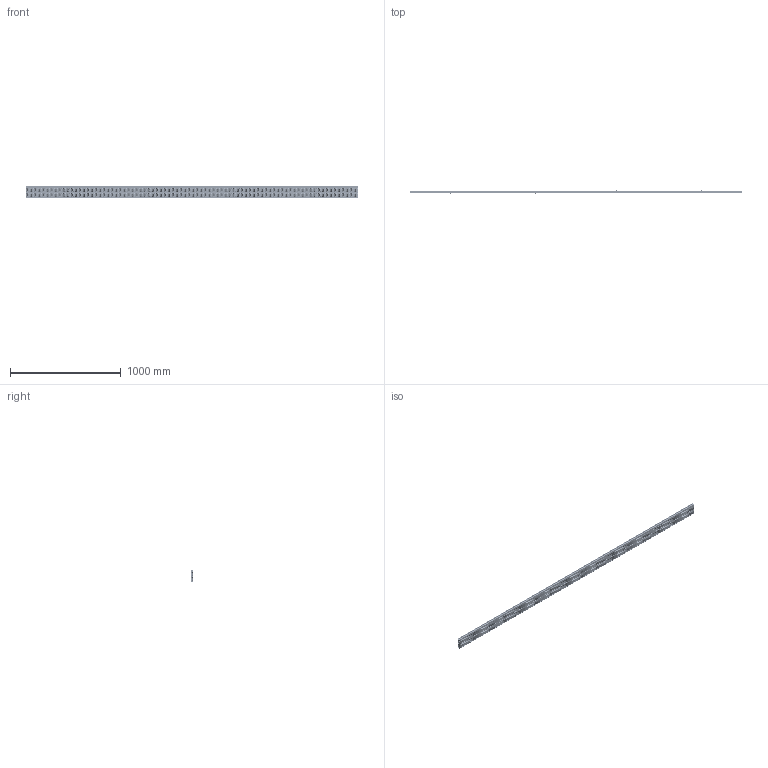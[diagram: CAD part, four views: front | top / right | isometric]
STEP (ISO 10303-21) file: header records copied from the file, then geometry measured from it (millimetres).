
FILE_DESCRIPTION(('STEP AP214'),'1');
FILE_NAME('P36102','2017-03-02T07:27:57',('dentellad'),(' '),'Spatial InterOp 3D',' ',' ');
FILE_SCHEMA(('automotive_design'));
Length unit declared in the file: millimetre
Products named in the file (1001): 1; 2; 3; 4; 5; 6; 7; 8; 9; 10; 11; 12; 13; 14; 15; 16; 17; 18; 19; 20; 21; 22; 23; 24; 25; 26; 27; 28; 29; 30; 31; 32; 33; 34; 35; 36; 37; 38; 39; 40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
Bounding box: 3000 x 27 x 103.5 mm (x, y, z)
Volume: 4996240.7 mm3; surface area: 2487544 mm2
Topology: 1001 solids, 1001 shells, 10123 faces, 25363 edges, 17242 vertices
Faces by surface type: torus 4000, plane 2071, cylinder 2052, cone 2000
Entity records: 508944 total; most frequent: DIRECTION 68715, CARTESIAN_POINT 53729, ORIENTED_EDGE 50726, AXIS2_PLACEMENT_3D 32228, STYLED_ITEM 28487, PRESENTATION_STYLE_ASSIGNMENT 28487, COLOUR_RGB 28487, EDGE_CURVE 25363
